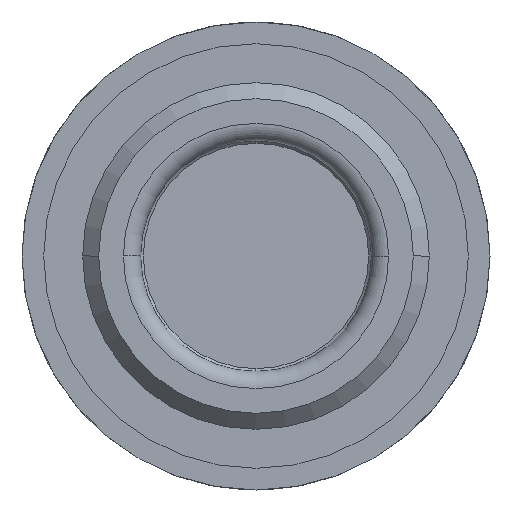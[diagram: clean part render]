
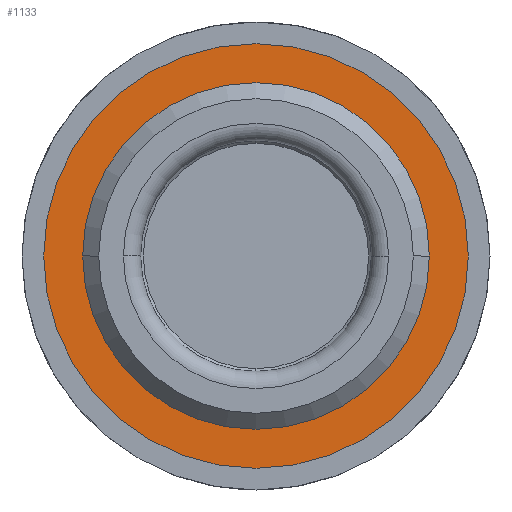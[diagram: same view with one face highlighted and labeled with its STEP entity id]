
A CAD part, front view. The second image highlights one B-rep face of the part: STEP entity #1133.
In plain terms, the highlighted planar face has unit normal (0, -1, 0) as drawn and (0, 0, -1) by its records, which use the part's own axes.
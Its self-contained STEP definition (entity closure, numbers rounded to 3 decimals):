
#73 = AXIS2_PLACEMENT_3D ( 'NONE', #704, #1802, #1249 ) ;
#76 = DIRECTION ( 'NONE',  ( 1., 0., 0. ) ) ;
#127 = ORIENTED_EDGE ( 'NONE', *, *, #263, .T. ) ;
#250 = EDGE_LOOP ( 'NONE', ( #127, #2574 ) ) ;
#263 = EDGE_CURVE ( 'NONE', #2682, #1138, #1176, .T. ) ;
#266 = VERTEX_POINT ( 'NONE', #995 ) ;
#514 = CIRCLE ( 'NONE', #2894, 12.25 ) ;
#678 = FACE_BOUND ( 'NONE', #250, .T. ) ;
#704 = CARTESIAN_POINT ( 'NONE',  ( 0., 0., 0. ) ) ;
#812 = EDGE_CURVE ( 'NONE', #1138, #2682, #2715, .T. ) ;
#995 = CARTESIAN_POINT ( 'NONE',  ( -12.25, 0., 0. ) ) ;
#1031 = ORIENTED_EDGE ( 'NONE', *, *, #1191, .F. ) ;
#1133 = ADVANCED_FACE ( 'NONE', ( #2672, #678 ), #1351, .F. ) ;
#1138 = VERTEX_POINT ( 'NONE', #2158 ) ;
#1176 = CIRCLE ( 'NONE', #73, 9.75 ) ;
#1191 = EDGE_CURVE ( 'NONE', #1799, #266, #514, .T. ) ;
#1239 = DIRECTION ( 'NONE',  ( 0., 0., 1. ) ) ;
#1249 = DIRECTION ( 'NONE',  ( 1., 0., 0. ) ) ;
#1351 = PLANE ( 'NONE',  #2722 ) ;
#1401 = DIRECTION ( 'NONE',  ( 0., 0., 1. ) ) ;
#1523 = DIRECTION ( 'NONE',  ( 0., 0., 1. ) ) ;
#1634 = DIRECTION ( 'NONE',  ( 0., 0., 1. ) ) ;
#1799 = VERTEX_POINT ( 'NONE', #3175 ) ;
#1802 = DIRECTION ( 'NONE',  ( 0., 0., 1. ) ) ;
#1863 = CIRCLE ( 'NONE', #3169, 12.25 ) ;
#1904 = ORIENTED_EDGE ( 'NONE', *, *, #2289, .F. ) ;
#1932 = AXIS2_PLACEMENT_3D ( 'NONE', #2791, #1239, #3063 ) ;
#2119 = EDGE_LOOP ( 'NONE', ( #1904, #1031 ) ) ;
#2158 = CARTESIAN_POINT ( 'NONE',  ( 9.75, 0., 0. ) ) ;
#2289 = EDGE_CURVE ( 'NONE', #266, #1799, #1863, .T. ) ;
#2402 = CARTESIAN_POINT ( 'NONE',  ( 0., 0., 0. ) ) ;
#2455 = CARTESIAN_POINT ( 'NONE',  ( -9.75, 0., 0. ) ) ;
#2574 = ORIENTED_EDGE ( 'NONE', *, *, #812, .T. ) ;
#2672 = FACE_OUTER_BOUND ( 'NONE', #2119, .T. ) ;
#2682 = VERTEX_POINT ( 'NONE', #2455 ) ;
#2715 = CIRCLE ( 'NONE', #1932, 9.75 ) ;
#2722 = AXIS2_PLACEMENT_3D ( 'NONE', #2402, #1634, #76 ) ;
#2791 = CARTESIAN_POINT ( 'NONE',  ( 0., 0., 0. ) ) ;
#2894 = AXIS2_PLACEMENT_3D ( 'NONE', #2965, #1401, #3222 ) ;
#2965 = CARTESIAN_POINT ( 'NONE',  ( 0., 0., 0. ) ) ;
#3063 = DIRECTION ( 'NONE',  ( 1., 0., 0. ) ) ;
#3086 = CARTESIAN_POINT ( 'NONE',  ( 0., 0., 0. ) ) ;
#3169 = AXIS2_PLACEMENT_3D ( 'NONE', #3086, #1523, #3331 ) ;
#3175 = CARTESIAN_POINT ( 'NONE',  ( 12.25, 0., 0. ) ) ;
#3222 = DIRECTION ( 'NONE',  ( 1., 0., 0. ) ) ;
#3331 = DIRECTION ( 'NONE',  ( 1., 0., 0. ) ) ;
